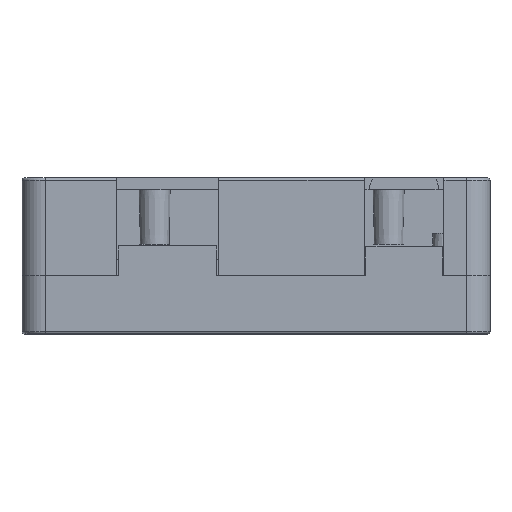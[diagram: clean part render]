
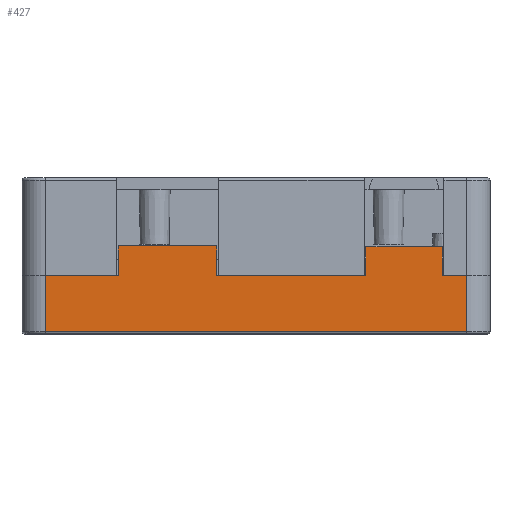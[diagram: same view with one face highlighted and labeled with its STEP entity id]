
A CAD part, front view. The second image highlights one B-rep face of the part: STEP entity #427.
In plain terms, the highlighted planar face has unit normal (0, -1, 0).
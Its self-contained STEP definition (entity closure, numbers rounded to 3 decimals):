
#427=ADVANCED_FACE('',(#1002),#836,.T.);
#836=PLANE('',#6941);
#1002=FACE_OUTER_BOUND('',#1404,.T.);
#1404=EDGE_LOOP('',(#2467,#2468,#2469,#2470,#2471,#2472,#2473,#2474,#2475,
#2476,#2477,#2478));
#2467=ORIENTED_EDGE('',*,*,#4991,.T.);
#2468=ORIENTED_EDGE('',*,*,#4997,.T.);
#2469=ORIENTED_EDGE('',*,*,#4993,.T.);
#2470=ORIENTED_EDGE('',*,*,#4998,.T.);
#2471=ORIENTED_EDGE('',*,*,#4999,.T.);
#2472=ORIENTED_EDGE('',*,*,#5000,.T.);
#2473=ORIENTED_EDGE('',*,*,#5001,.T.);
#2474=ORIENTED_EDGE('',*,*,#5002,.T.);
#2475=ORIENTED_EDGE('',*,*,#5003,.T.);
#2476=ORIENTED_EDGE('',*,*,#5004,.T.);
#2477=ORIENTED_EDGE('',*,*,#5005,.T.);
#2478=ORIENTED_EDGE('',*,*,#5006,.T.);
#4413=VERTEX_POINT('',#10429);
#4414=VERTEX_POINT('',#10431);
#4415=VERTEX_POINT('',#10435);
#4416=VERTEX_POINT('',#10436);
#4419=VERTEX_POINT('',#10445);
#4420=VERTEX_POINT('',#10447);
#4421=VERTEX_POINT('',#10449);
#4422=VERTEX_POINT('',#10451);
#4423=VERTEX_POINT('',#10453);
#4424=VERTEX_POINT('',#10455);
#4425=VERTEX_POINT('',#10457);
#4426=VERTEX_POINT('',#10459);
#4991=EDGE_CURVE('',#4414,#4413,#5926,.T.);
#4993=EDGE_CURVE('',#4415,#4416,#5927,.T.);
#4997=EDGE_CURVE('',#4413,#4415,#5929,.T.);
#4998=EDGE_CURVE('',#4416,#4419,#5930,.T.);
#4999=EDGE_CURVE('',#4419,#4420,#5931,.T.);
#5000=EDGE_CURVE('',#4420,#4421,#5932,.T.);
#5001=EDGE_CURVE('',#4421,#4422,#5933,.T.);
#5002=EDGE_CURVE('',#4422,#4423,#5934,.T.);
#5003=EDGE_CURVE('',#4423,#4424,#5935,.T.);
#5004=EDGE_CURVE('',#4424,#4425,#5936,.T.);
#5005=EDGE_CURVE('',#4425,#4426,#5937,.T.);
#5006=EDGE_CURVE('',#4426,#4414,#5938,.T.);
#5926=LINE('',#10430,#6472);
#5927=LINE('',#10434,#6473);
#5929=LINE('',#10443,#6475);
#5930=LINE('',#10444,#6476);
#5931=LINE('',#10446,#6477);
#5932=LINE('',#10448,#6478);
#5933=LINE('',#10450,#6479);
#5934=LINE('',#10452,#6480);
#5935=LINE('',#10454,#6481);
#5936=LINE('',#10456,#6482);
#5937=LINE('',#10458,#6483);
#5938=LINE('',#10460,#6484);
#6472=VECTOR('',#8048,1.);
#6473=VECTOR('',#8053,1.);
#6475=VECTOR('',#8061,1.);
#6476=VECTOR('',#8062,1.);
#6477=VECTOR('',#8063,1.);
#6478=VECTOR('',#8064,1.);
#6479=VECTOR('',#8065,1.);
#6480=VECTOR('',#8066,1.);
#6481=VECTOR('',#8067,1.);
#6482=VECTOR('',#8068,1.);
#6483=VECTOR('',#8069,1.);
#6484=VECTOR('',#8070,1.);
#6941=AXIS2_PLACEMENT_3D('',#10461,#8071,#8072);
#8048=DIRECTION('',(0.,0.,-1.));
#8053=DIRECTION('',(0.,0.,1.));
#8061=DIRECTION('',(1.,0.,0.));
#8062=DIRECTION('',(-1.,0.,0.));
#8063=DIRECTION('',(0.,0.,1.));
#8064=DIRECTION('',(-1.,0.,0.));
#8065=DIRECTION('',(0.,0.,-1.));
#8066=DIRECTION('',(-1.,0.,0.));
#8067=DIRECTION('',(0.,0.,1.));
#8068=DIRECTION('',(-1.,0.,0.));
#8069=DIRECTION('',(0.,0.,-1.));
#8070=DIRECTION('',(-1.,0.,0.));
#8071=DIRECTION('',(0.,-1.,0.));
#8072=DIRECTION('',(0.,0.,-1.));
#10429=CARTESIAN_POINT('',(-27.,-49.425,-14.4));
#10430=CARTESIAN_POINT('',(-27.,-49.425,-14.7));
#10431=CARTESIAN_POINT('',(-27.,-49.425,-7.2));
#10434=CARTESIAN_POINT('',(27.,-49.425,-14.7));
#10435=CARTESIAN_POINT('',(27.,-49.425,-14.4));
#10436=CARTESIAN_POINT('',(27.,-49.425,-7.2));
#10443=CARTESIAN_POINT('',(27.,-49.425,-14.4));
#10444=CARTESIAN_POINT('',(-30.,-49.425,-7.2));
#10445=CARTESIAN_POINT('',(23.895,-49.425,-7.2));
#10446=CARTESIAN_POINT('',(23.895,-49.425,-7.2));
#10447=CARTESIAN_POINT('',(23.895,-49.425,-3.51));
#10448=CARTESIAN_POINT('',(23.895,-49.425,-3.51));
#10449=CARTESIAN_POINT('',(14.095,-49.425,-3.51));
#10450=CARTESIAN_POINT('',(14.095,-49.425,-3.51));
#10451=CARTESIAN_POINT('',(14.095,-49.425,-7.2));
#10452=CARTESIAN_POINT('',(-30.,-49.425,-7.2));
#10453=CARTESIAN_POINT('',(-5.02,-49.425,-7.2));
#10454=CARTESIAN_POINT('',(-5.02,-49.425,-7.2));
#10455=CARTESIAN_POINT('',(-5.02,-49.425,-3.41));
#10456=CARTESIAN_POINT('',(-5.02,-49.425,-3.41));
#10457=CARTESIAN_POINT('',(-17.66,-49.425,-3.41));
#10458=CARTESIAN_POINT('',(-17.66,-49.425,-3.41));
#10459=CARTESIAN_POINT('',(-17.66,-49.425,-7.2));
#10460=CARTESIAN_POINT('',(-30.,-49.425,-7.2));
#10461=CARTESIAN_POINT('',(-30.,-49.425,-14.7));
